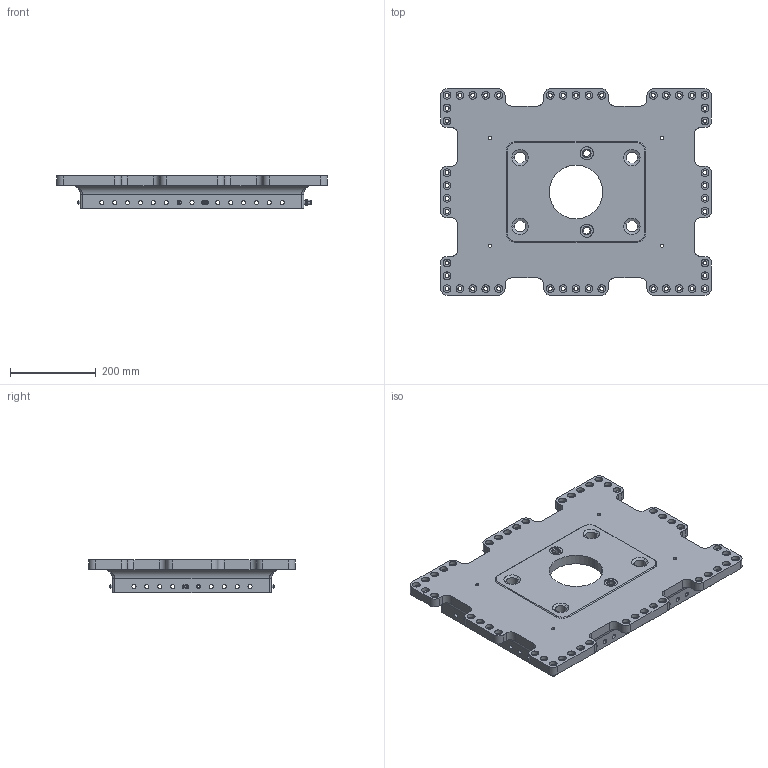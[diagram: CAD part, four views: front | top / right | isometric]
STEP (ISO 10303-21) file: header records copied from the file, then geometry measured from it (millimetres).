
FILE_DESCRIPTION(('STEP AP214'),'1');
FILE_NAME('EGT011_1702454_H_RAHMEN_450X600_SW80.CATPart.stp','2015-09-14T13:04:02',('3D-Tool'),(' '),'Spatial InterOp 3D',' ',' ');
FILE_SCHEMA(('automotive_design'));
Length unit declared in the file: millimetre
Products named in the file (1): EGT011_1702454_H_RAHMEN_450X600_SW80|PartBody|Assemble.37
Bounding box: 630 x 480 x 79 mm (x, y, z)
Volume: 7708347.8 mm3; surface area: 816172.5 mm2
Topology: 1 solids, 2 shells, 1019 faces, 2738 edges, 1784 vertices
Faces by surface type: cylinder 770, plane 171, cone 42, torus 28, bspline 8
Entity records: 42549 total; most frequent: CARTESIAN_POINT 7010, DIRECTION 6322, ORIENTED_EDGE 5460, EDGE_CURVE 2730, AXIS2_PLACEMENT_3D 2634, VERTEX_POINT 1784, CIRCLE 1622, EDGE_LOOP 1302
